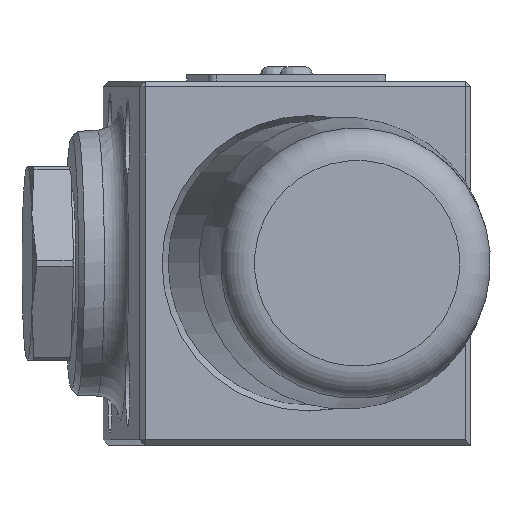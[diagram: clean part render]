
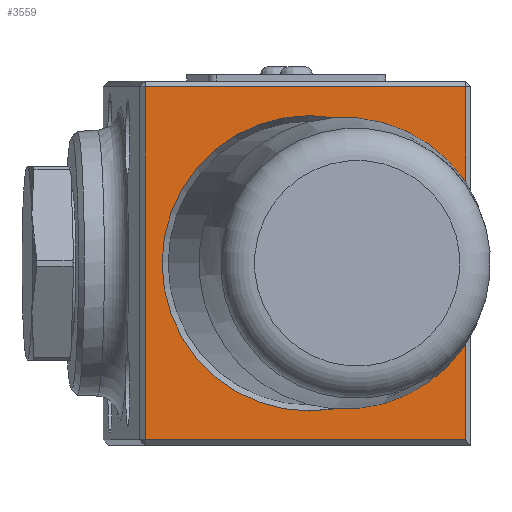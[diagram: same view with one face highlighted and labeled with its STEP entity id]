
A CAD part, left-side view. The second image highlights one B-rep face of the part: STEP entity #3559.
In plain terms, the highlighted planar face has unit normal (-0.999, -0.054, 0).
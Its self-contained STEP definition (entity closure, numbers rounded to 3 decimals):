
#467=LINE('',#8210,#632);
#468=LINE('',#8213,#633);
#469=LINE('',#8215,#634);
#470=LINE('',#8217,#635);
#632=VECTOR('',#5171,1.);
#633=VECTOR('',#5172,1.);
#634=VECTOR('',#5173,1.);
#635=VECTOR('',#5174,1.);
#905=PLANE('',#4534);
#1087=EDGE_LOOP('',(#1678,#1679,#1680,#1681));
#1088=EDGE_LOOP('',(#1682));
#1678=ORIENTED_EDGE('',*,*,#2546,.T.);
#1679=ORIENTED_EDGE('',*,*,#2547,.T.);
#1680=ORIENTED_EDGE('',*,*,#2548,.T.);
#1681=ORIENTED_EDGE('',*,*,#2549,.T.);
#1682=ORIENTED_EDGE('',*,*,#2550,.F.);
#2546=EDGE_CURVE('',#4152,#4153,#467,.T.);
#2547=EDGE_CURVE('',#4153,#4154,#468,.T.);
#2548=EDGE_CURVE('',#4154,#4155,#469,.T.);
#2549=EDGE_CURVE('',#4155,#4152,#470,.T.);
#2550=EDGE_CURVE('',#4156,#4156,#2947,.T.);
#2947=CIRCLE('',#4533,18.25);
#3559=ADVANCED_FACE('',(#3846,#3847),#905,.T.);
#3846=FACE_BOUND('',#1087,.T.);
#3847=FACE_BOUND('',#1088,.T.);
#4152=VERTEX_POINT('',#8211);
#4153=VERTEX_POINT('',#8212);
#4154=VERTEX_POINT('',#8214);
#4155=VERTEX_POINT('',#8216);
#4156=VERTEX_POINT('',#8219);
#4533=AXIS2_PLACEMENT_3D('',#8218,#5175,#5176);
#4534=AXIS2_PLACEMENT_3D('',#8220,#5177,#5178);
#5171=DIRECTION('',(0.054,-0.999,0.));
#5172=DIRECTION('',(0.,0.,1.));
#5173=DIRECTION('',(-0.054,0.999,0.));
#5174=DIRECTION('',(0.,0.,-1.));
#5175=DIRECTION('',(-0.999,-0.054,0.));
#5176=DIRECTION('',(0.,0.,1.));
#5177=DIRECTION('',(-0.999,-0.054,0.));
#5178=DIRECTION('',(-0.054,0.999,0.));
#8210=CARTESIAN_POINT('',(131.717,-25.424,-21.801));
#8211=CARTESIAN_POINT('',(129.532,14.817,-21.801));
#8212=CARTESIAN_POINT('',(131.679,-24.725,-21.801));
#8213=CARTESIAN_POINT('',(131.679,-24.725,22.499));
#8214=CARTESIAN_POINT('',(131.679,-24.725,21.799));
#8215=CARTESIAN_POINT('',(129.494,15.516,21.799));
#8216=CARTESIAN_POINT('',(129.532,14.817,21.799));
#8217=CARTESIAN_POINT('',(129.532,14.817,22.499));
#8218=CARTESIAN_POINT('',(130.632,-5.453,-0.001));
#8219=CARTESIAN_POINT('',(130.632,-5.453,18.249));
#8220=CARTESIAN_POINT('',(131.717,-25.424,22.499));
